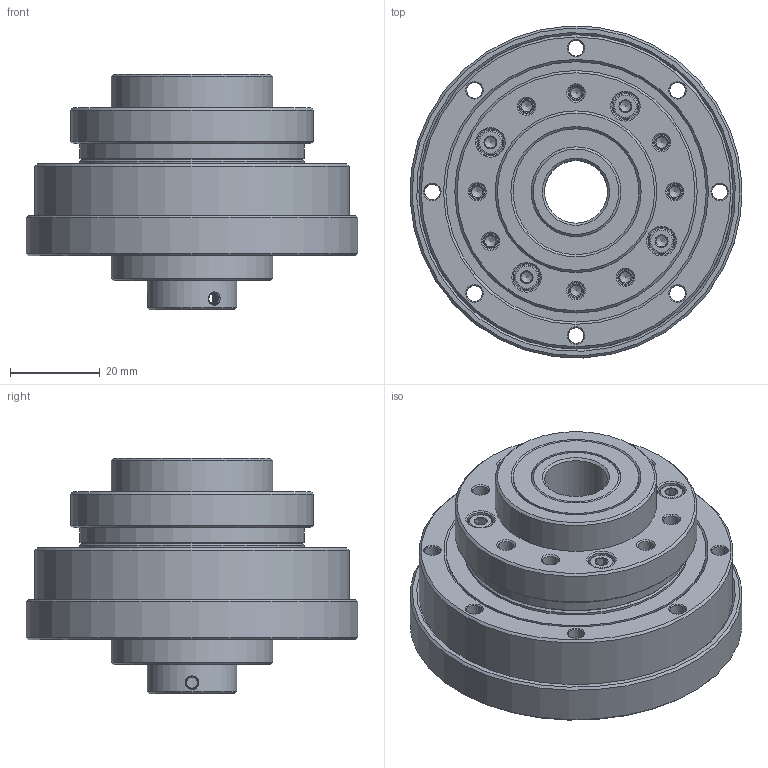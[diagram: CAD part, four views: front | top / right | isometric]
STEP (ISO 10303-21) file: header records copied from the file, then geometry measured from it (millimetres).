
FILE_DESCRIPTION(/* description */ (''),/* implementation_level */ '2;1');
FILE_NAME(/* name */ 'LHT-14-XX-U-III.stp',/* time_stamp */ '2023-07-29T10:54:04+08:00',/* author */ (''),/* organization */ (''),/* preprocessor_version */ 'ST-DEVELOPER v16.7',/* originating_system */ 'SIEMENS PLM Software NX 12.0',/* authorisation */ '');
FILE_SCHEMA (('AUTOMOTIVE_DESIGN { 1 0 10303 214 3 1 1 1 }'));
Length unit declared in the file: millimetre
Products named in the file (18): EB253406-14KC-46; EB253406-14KC-01; TC-50x58x4; SC-20x28x4; 内六角平圆头螺钉M3x10; GB-T70.1-2000,M3x12; 内六角平圆头螺钉M3x8(4.5mm头径); GB-T276_60000_2RZ-1994,61804_2RZ; LHT-14-00-III下壳体; LHT-14-00-III上壳体; LHT-14-XX-III; O-38x0.5; O-54x1.5; 刚轮LHT-14-III; 柔轮LHT-14; EB253406-14KC; 交叉轴承LHT-14; LHT-14-XX-U-III
Assembly tree (26 placements, depth 3):
  LHT-14-XX-U-III
    交叉轴承LHT-14
      TC-50x58x4
    柔轮LHT-14
    刚轮LHT-14-III
    EB253406-14KC
      EB253406-14KC-01
      EB253406-14KC-46
    O-54x1.5
    O-38x0.5
    LHT-14-XX-III
    LHT-14-00-III上壳体
    LHT-14-00-III下壳体
    GB-T276_60000_2RZ-1994,61804_2RZ  x2
    内六角平圆头螺钉M3x8(4.5mm头径)  x2
    GB-T70.1-2000,M3x12  x4
    内六角平圆头螺钉M3x10  x4
    SC-20x28x4  x2
Bounding box: 73.93 x 73.93 x 52.5 mm (x, y, z)
Volume: 94763.1 mm3; surface area: 81991.4 mm2
Topology: 84 solids, 84 shells, 996 faces, 2271 edges, 1395 vertices
Faces by surface type: cone 300, plane 288, cylinder 243, torus 96, sphere 51, bspline 16, revolution 2
Full cylindrical faces by diameter (mm): 2.5 x18, 2.874 x10, 3.5 x58, 4.5 x2, 4.8 x2, 5.5 x8, 6 x8, 14 x2, 14.3 x1, 19.5 x2, 20 x6, 22.319 x1, 23.4 x1, 24 x5, 25.07 x2, 26.71 x2, 27.45 x1, 28 x8, 28.7 x8, 29 x1, 31.5 x1, 32 x4, 32.36 x2, 33.92 x2, 34.41 x1, 35.03 x1, 35.16 x1, 35.6 x1, 36 x2, 36.5 x1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
Entity records: 34124 total; most frequent: CARTESIAN_POINT 17881, DIRECTION 3322, ORIENTED_EDGE 2316, AXIS2_PLACEMENT_3D 1585, EDGE_LOOP 1336, FACE_BOUND 1175, EDGE_CURVE 1158, VERTEX_POINT 1002
